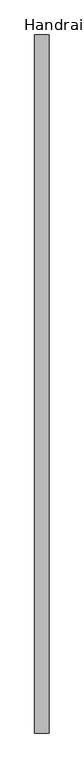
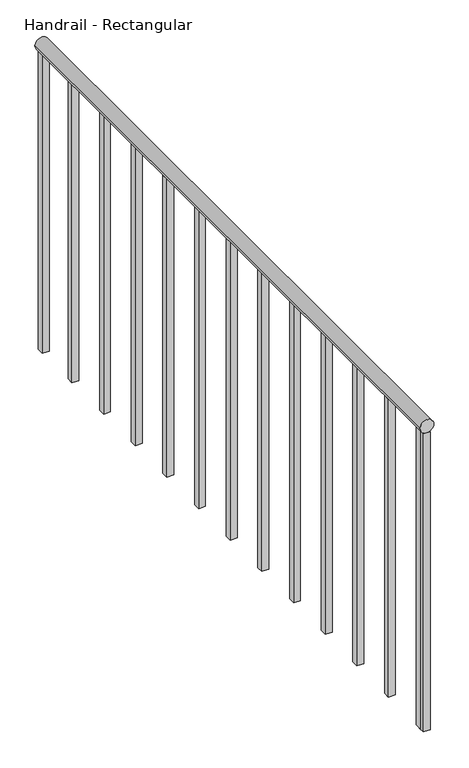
"""IFC4 building model written with IfcOpenShell, lengths in millimetres: railing geometry, Handrail - Rectangular."""

import ifcopenshell
import ifcopenshell.guid

model = None  # the IFC model being written
_history = None  # IfcOwnerHistory: only IFC2X3 demands one
_inside = {}  # id of a spatial element -> (the spatial element, [elements in it])
_under = {}  # id of a project, library or spatial element -> (it, [spatial elements below it])
_declared = {}  # id of a project -> (the project, [libraries it declares])
_typed = {}  # id of a type object -> (the type object, [elements of that type])
_made_of = {}  # id of a material, layer set ... -> (it, [elements and type objects made of it])


def new_model(schema):
    """Start an empty IFC model of exactly this schema.

    Asked for "IFC4X3", IfcOpenShell would pick the latest addendum, in which some entities
    have other attributes; the version numbers below select the first issue.
    IFC2X3 requires an IfcOwnerHistory on every rooted entity: one is made here for all.
    """
    global model, _history
    if schema == "IFC4X3":
        model = ifcopenshell.file(schema_version=(4, 3, 0, 0))
    else:
        model = ifcopenshell.file(schema=schema)
    _inside.clear()
    _under.clear()
    _declared.clear()
    _typed.clear()
    _made_of.clear()
    _history = None
    if model.schema == "IFC2X3":
        org = make("IfcOrganization", Name="unknown")
        user = make(
            "IfcPersonAndOrganization",
            ThePerson=make("IfcPerson", FamilyName="unknown"),
            TheOrganization=org,
        )
        app = make(
            "IfcApplication",
            ApplicationDeveloper=org,
            Version="unknown",
            ApplicationFullName="unknown",
            ApplicationIdentifier="unknown",
        )
        _history = make(
            "IfcOwnerHistory",
            OwningUser=user,
            OwningApplication=app,
            ChangeAction="ADDED",
            CreationDate=0,
        )
    return model


def make(cls, **values):
    """One entity of the class cls with the attributes given. An attribute that is None is left unset."""
    return model.create_entity(
        cls, **{name: value for name, value in values.items() if value is not None}
    )


def rooted(cls, **values):
    """An entity with a GlobalId (a new one), such as an element, a storey or a relation."""
    return make(cls, GlobalId=ifcopenshell.guid.new(), OwnerHistory=_history, **values)


def si_unit(unit_type, name, prefix=None):
    """IfcSIUnit, for example si_unit("LENGTHUNIT", "METRE", prefix="MILLI")."""
    return make("IfcSIUnit", UnitType=unit_type, Prefix=prefix, Name=name)


def assignment(units):
    """IfcUnitAssignment: the units of a project."""
    return None if units is None else make("IfcUnitAssignment", Units=units)


def point(xyz):
    """IfcCartesianPoint."""
    return None if xyz is None else make("IfcCartesianPoint", Coordinates=xyz)


def direction(xyz):
    """IfcDirection."""
    return None if xyz is None else make("IfcDirection", DirectionRatios=xyz)


def frame(location, z_axis=None, x_axis=None):
    """IfcAxis2Placement3D, a coordinate frame: its origin and axes. An axis left out is left unset."""
    return make(
        "IfcAxis2Placement3D",
        Location=point(location),
        Axis=direction(z_axis),
        RefDirection=direction(x_axis),
    )


def frame_2d(location, x_axis=None):
    """IfcAxis2Placement2D, a coordinate frame in the plane: its origin and x axis."""
    return make(
        "IfcAxis2Placement2D", Location=point(location), RefDirection=direction(x_axis)
    )


def origin():
    """The frame at (0, 0, 0) with its axes left unset."""
    return frame((0.0, 0.0, 0.0))


def place(relative_to, where):
    """IfcLocalPlacement: puts the frame where relative to a parent placement (None: the world)."""
    return make(
        "IfcLocalPlacement", PlacementRelTo=relative_to, RelativePlacement=where
    )


def context(
    kind, dimensions, precision=None, world=None, true_north=None, identifier=None
):
    """IfcGeometricRepresentationContext, for example the 3D "Model" context."""
    return make(
        "IfcGeometricRepresentationContext",
        ContextIdentifier=identifier,
        ContextType=kind,
        CoordinateSpaceDimension=dimensions,
        Precision=precision,
        WorldCoordinateSystem=world,
        TrueNorth=true_north,
    )


def project(units=None, contexts=None):
    """IfcProject with its units and contexts."""
    return rooted(
        "IfcProject",
        Name="project",
        RepresentationContexts=contexts,
        UnitsInContext=assignment(units),
    )


def spatial(cls, under=None, at=None, **own):
    """A site, building, storey or space (cls), placed at a placement, below another one or the project."""
    s = rooted(cls, ObjectPlacement=at, **own)
    if under is not None:
        _under.setdefault(under.id(), (under, []))[1].append(s)
    return s


def polyline(points):
    """IfcPolyline through the points."""
    return make("IfcPolyline", Points=[point(p) for p in points])


def circle_curve(where, radius):
    """IfcCircle in the frame where."""
    return make("IfcCircle", Position=where, Radius=radius)


def trimmed(basis, trim1, trim2, sense, master):
    """IfcTrimmedCurve: the piece of a basis curve between two trims."""
    return make(
        "IfcTrimmedCurve",
        BasisCurve=basis,
        Trim1=trim1,
        Trim2=trim2,
        SenseAgreement=sense,
        MasterRepresentation=master,
    )


def segment(curve, same_sense, transition):
    """IfcCompositeCurveSegment."""
    return make(
        "IfcCompositeCurveSegment",
        Transition=transition,
        SameSense=same_sense,
        ParentCurve=curve,
    )


def composite_curve(segments, self_intersect=None):
    """IfcCompositeCurve: segments joined end to end."""
    return make("IfcCompositeCurve", Segments=segments, SelfIntersect=self_intersect)


def outline(outer, holes=None, kind="AREA"):
    """IfcArbitraryClosedProfileDef: a profile drawn as a closed curve; with holes, ...WithVoids."""
    if holes is None:
        return make("IfcArbitraryClosedProfileDef", ProfileType=kind, OuterCurve=outer)
    return make(
        "IfcArbitraryProfileDefWithVoids",
        ProfileType=kind,
        OuterCurve=outer,
        InnerCurves=holes,
    )


def extrude(swept, where, along, depth):
    """IfcExtrudedAreaSolid: the profile swept, set in the frame where, extruded along a direction by depth."""
    return make(
        "IfcExtrudedAreaSolid",
        SweptArea=swept,
        Position=where,
        ExtrudedDirection=direction(along),
        Depth=depth,
    )


def shape(context_of_items, identifier, shape_type, items):
    """IfcShapeRepresentation: the items that make up one representation, for example the "Body"."""
    return make(
        "IfcShapeRepresentation",
        ContextOfItems=context_of_items,
        RepresentationIdentifier=identifier,
        RepresentationType=shape_type,
        Items=items,
    )


def source(mapping_origin, context_of_items, identifier, shape_type, items):
    """IfcRepresentationMap: a shape defined once, which mapped items show again and again."""
    return make(
        "IfcRepresentationMap",
        MappingOrigin=mapping_origin,
        MappedRepresentation=shape(context_of_items, identifier, shape_type, items),
    )


def transform(
    local_origin,
    x_axis=None,
    y_axis=None,
    z_axis=None,
    scale=None,
    scale2=None,
    scale3=None,
    uniform=True,
):
    """IfcCartesianTransformationOperator3D, or its non-uniform kind. x_axis, y_axis, z_axis: its Axis1, 2, 3."""
    if uniform:
        return make(
            "IfcCartesianTransformationOperator3D",
            Axis1=direction(x_axis),
            Axis2=direction(y_axis),
            LocalOrigin=point(local_origin),
            Scale=scale,
            Axis3=direction(z_axis),
        )
    return make(
        "IfcCartesianTransformationOperator3DnonUniform",
        Axis1=direction(x_axis),
        Axis2=direction(y_axis),
        LocalOrigin=point(local_origin),
        Scale=scale,
        Axis3=direction(z_axis),
        Scale2=scale2,
        Scale3=scale3,
    )


def mapped(mapping_source, mapping_target):
    """IfcMappedItem: shows the shape of a source again, moved by a transform."""
    return make(
        "IfcMappedItem", MappingSource=mapping_source, MappingTarget=mapping_target
    )


def made_of(thing, what):
    """Note that an element or type object is made of a material, layer set ...; save() writes the relation."""
    if what is not None:
        _made_of.setdefault(what.id(), (what, []))[1].append(thing)
    return thing


def element(
    cls,
    number,
    at=None,
    inside=None,
    cuts=None,
    type_object=None,
    material=None,
    context=None,
    identifier="Body",
    shape_type=None,
    held_by="IfcProductDefinitionShape",
    body=None,
    shapes=None,
    **own,
):
    """One element of the class cls, such as IfcWall. Its Tag is "e" and its number.

    at: its placement. inside: the storey or other place that contains it. cuts: it is an
    opening in that element (IfcRelVoidsElement). A single representation is given by context,
    identifier, shape_type and body (its items); several are given by shapes. held_by: the class
    of the entity that holds the representations. save() writes the other relations.
    """
    e = rooted(cls, Tag="e%d" % number, ObjectPlacement=at, **own)
    if body is not None:
        shapes = [shape(context, identifier, shape_type, body)]
    if shapes is not None:
        e.Representation = make(held_by, Representations=shapes)
    if inside is not None:
        _inside.setdefault(inside.id(), (inside, []))[1].append(e)
    if cuts is not None:
        rooted(
            "IfcRelVoidsElement", RelatingBuildingElement=cuts, RelatedOpeningElement=e
        )
    if type_object is not None:
        _typed.setdefault(type_object.id(), (type_object, []))[1].append(e)
    return made_of(e, material)


def aggregate(whole, parts):
    """IfcRelAggregates: a whole, such as a stair, and the parts it consists of."""
    return rooted("IfcRelAggregates", RelatingObject=whole, RelatedObjects=parts)


def save(model, path):
    """Write the relations noted so far, then the file.

    IfcRelAggregates (storeys below a building ...), IfcRelContainedInSpatialStructure (elements
    in a storey), IfcRelDefinesByType, IfcRelAssociatesMaterial and IfcRelDeclares: one each for
    every whole, place, type object, material and project.
    """
    for whole, parts in _under.values():
        aggregate(whole, parts)
    for where, things in _inside.values():
        rooted(
            "IfcRelContainedInSpatialStructure",
            RelatedElements=things,
            RelatingStructure=where,
        )
    for kind, things in _typed.values():
        rooted("IfcRelDefinesByType", RelatedObjects=things, RelatingType=kind)
    for what, things in _made_of.values():
        rooted("IfcRelAssociatesMaterial", RelatedObjects=things, RelatingMaterial=what)
    for by, libraries in _declared.values():
        rooted("IfcRelDeclares", RelatingContext=by, RelatedDefinitions=libraries)
    model.write(path)


def handrail_rectangular_a1b2dedc(model_context):
    return source(origin(), model_context, "Body", "SweptSolid", [
        extrude(outline(composite_curve([segment(trimmed(circle_curve(frame_2d((3943.35, 2297.1410437)), 19.05), [point((3943.35, 2316.1910437))], [point((3943.35, 2278.0910437))], False, "CARTESIAN"), True, "CONTINUOUS"), segment(trimmed(circle_curve(frame_2d((3943.35, 2297.1410437)), 19.05), [point((3943.35, 2278.0910437))], [point((3943.35, 2316.1910437))], False, "CARTESIAN"), True, "CONTINUOUS")], self_intersect=False)), frame((0.0, 4578.8316867, 0.0), z_axis=(0.0, 1.0, 0.0), x_axis=(0.0, 0.0, 1.0)), (0.0, 0.0, 1.0), 1854.2),
        extrude(outline(polyline([(2287.6160437, 4613.7566867), (2306.6660437, 4613.7566867), (2306.6660437, 4594.7066867), (2287.6160437, 4594.7066867), (2287.6160437, 4613.7566867)])), frame((0.0, 0.0, 3048.0), z_axis=(0.0, 0.0, 1.0), x_axis=(1.0, 0.0, 0.0)), (0.0, 0.0, 1.0), 876.3),
        extrude(outline(polyline([(2287.6160437, 4766.1566867), (2306.6660437, 4766.1566867), (2306.6660437, 4747.1066867), (2287.6160437, 4747.1066867), (2287.6160437, 4766.1566867)])), frame((0.0, 0.0, 3048.0), z_axis=(0.0, 0.0, 1.0), x_axis=(1.0, 0.0, 0.0)), (0.0, 0.0, 1.0), 876.3),
        extrude(outline(polyline([(2287.6160437, 4918.5566867), (2306.6660437, 4918.5566867), (2306.6660437, 4899.5066867), (2287.6160437, 4899.5066867), (2287.6160437, 4918.5566867)])), frame((0.0, 0.0, 3048.0), z_axis=(0.0, 0.0, 1.0), x_axis=(1.0, 0.0, 0.0)), (0.0, 0.0, 1.0), 876.3),
        extrude(outline(polyline([(2287.6160437, 5070.9566867), (2306.6660437, 5070.9566867), (2306.6660437, 5051.9066867), (2287.6160437, 5051.9066867), (2287.6160437, 5070.9566867)])), frame((0.0, 0.0, 3048.0), z_axis=(0.0, 0.0, 1.0), x_axis=(1.0, 0.0, 0.0)), (0.0, 0.0, 1.0), 876.3),
        extrude(outline(polyline([(2287.6160437, 5223.3566867), (2306.6660437, 5223.3566867), (2306.6660437, 5204.3066867), (2287.6160437, 5204.3066867), (2287.6160437, 5223.3566867)])), frame((0.0, 0.0, 3048.0), z_axis=(0.0, 0.0, 1.0), x_axis=(1.0, 0.0, 0.0)), (0.0, 0.0, 1.0), 876.3),
        extrude(outline(polyline([(2287.6160437, 5375.7566867), (2306.6660437, 5375.7566867), (2306.6660437, 5356.7066867), (2287.6160437, 5356.7066867), (2287.6160437, 5375.7566867)])), frame((0.0, 0.0, 3048.0), z_axis=(0.0, 0.0, 1.0), x_axis=(1.0, 0.0, 0.0)), (0.0, 0.0, 1.0), 876.3),
        extrude(outline(polyline([(2287.6160437, 5528.1566867), (2306.6660437, 5528.1566867), (2306.6660437, 5509.1066867), (2287.6160437, 5509.1066867), (2287.6160437, 5528.1566867)])), frame((0.0, 0.0, 3048.0), z_axis=(0.0, 0.0, 1.0), x_axis=(1.0, 0.0, 0.0)), (0.0, 0.0, 1.0), 876.3),
        extrude(outline(polyline([(2287.6160437, 5680.5566867), (2306.6660437, 5680.5566867), (2306.6660437, 5661.5066867), (2287.6160437, 5661.5066867), (2287.6160437, 5680.5566867)])), frame((0.0, 0.0, 3048.0), z_axis=(0.0, 0.0, 1.0), x_axis=(1.0, 0.0, 0.0)), (0.0, 0.0, 1.0), 876.3),
        extrude(outline(polyline([(2287.6160437, 5832.9566867), (2306.6660437, 5832.9566867), (2306.6660437, 5813.9066867), (2287.6160437, 5813.9066867), (2287.6160437, 5832.9566867)])), frame((0.0, 0.0, 3048.0), z_axis=(0.0, 0.0, 1.0), x_axis=(1.0, 0.0, 0.0)), (0.0, 0.0, 1.0), 876.3),
        extrude(outline(polyline([(2287.6160437, 5985.3566867), (2306.6660437, 5985.3566867), (2306.6660437, 5966.3066867), (2287.6160437, 5966.3066867), (2287.6160437, 5985.3566867)])), frame((0.0, 0.0, 3048.0), z_axis=(0.0, 0.0, 1.0), x_axis=(1.0, 0.0, 0.0)), (0.0, 0.0, 1.0), 876.3),
        extrude(outline(polyline([(2287.6160437, 6137.7566867), (2306.6660437, 6137.7566867), (2306.6660437, 6118.7066867), (2287.6160437, 6118.7066867), (2287.6160437, 6137.7566867)])), frame((0.0, 0.0, 3048.0), z_axis=(0.0, 0.0, 1.0), x_axis=(1.0, 0.0, 0.0)), (0.0, 0.0, 1.0), 876.3),
        extrude(outline(polyline([(2287.6160437, 6290.1566867), (2306.6660437, 6290.1566867), (2306.6660437, 6271.1066867), (2287.6160437, 6271.1066867), (2287.6160437, 6290.1566867)])), frame((0.0, 0.0, 3048.0), z_axis=(0.0, 0.0, 1.0), x_axis=(1.0, 0.0, 0.0)), (0.0, 0.0, 1.0), 876.3),
        extrude(outline(polyline([(2287.6160437, 4597.8816867), (2306.6660437, 4597.8816867), (2306.6660437, 4578.8316867), (2287.6160437, 4578.8316867), (2287.6160437, 4597.8816867)])), frame((0.0, 0.0, 3048.0), z_axis=(0.0, 0.0, 1.0), x_axis=(1.0, 0.0, 0.0)), (0.0, 0.0, 1.0), 876.3),
        extrude(outline(polyline([(2287.6160437, 6433.0316867), (2306.6660437, 6433.0316867), (2306.6660437, 6413.9816867), (2287.6160437, 6413.9816867), (2287.6160437, 6433.0316867)])), frame((0.0, 0.0, 3048.0), z_axis=(0.0, 0.0, 1.0), x_axis=(1.0, 0.0, 0.0)), (0.0, 0.0, 1.0), 876.3),
    ])


if __name__ == "__main__":
    model = new_model("IFC4")
    model_context = context("Model", 3, world=origin())
    ifc_project = project(units=[si_unit("LENGTHUNIT", "METRE", prefix="MILLI")], contexts=[model_context])
    site = spatial("IfcSite", under=ifc_project)
    building = spatial("IfcBuilding", under=site)
    placement = place(None, origin())
    handrail_rectangular_shape = handrail_rectangular_a1b2dedc(model_context)
    element("IfcRailing", 1, ObjectType="Handrail - Rectangular", at=placement, inside=building, context=model_context, shape_type="MappedRepresentation", body=[
        mapped(handrail_rectangular_shape, transform((0.0, 0.0, 0.0), x_axis=(1.0, 0.0, 0.0), y_axis=(0.0, 1.0, 0.0), z_axis=(0.0, 0.0, 1.0))),
    ])
    save(model, "model.ifc")
